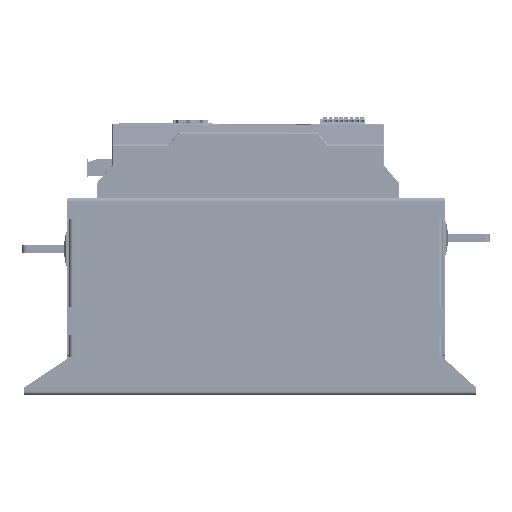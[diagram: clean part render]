
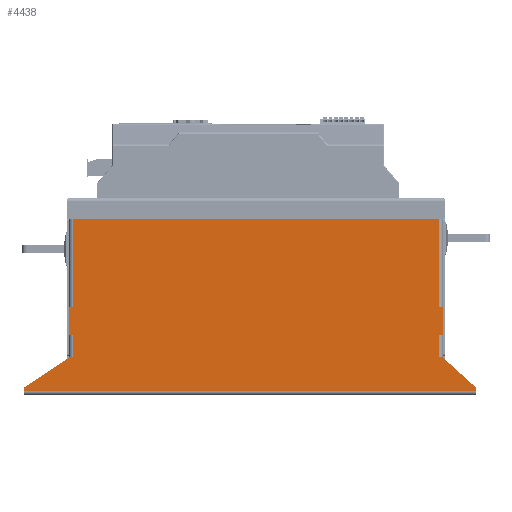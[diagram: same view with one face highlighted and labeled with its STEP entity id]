
A CAD part, front view. The second image highlights one B-rep face of the part: STEP entity #4438.
In plain terms, the highlighted planar face has unit normal (0, -1, 0).
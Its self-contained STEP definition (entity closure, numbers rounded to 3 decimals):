
#281=DIRECTION('',(1.,0.,0.));
#282=VECTOR('',#281,300.);
#283=CARTESIAN_POINT('',(0.,-135.,2.4));
#284=LINE('',#283,#282);
#311=DIRECTION('',(-0.74,0.,0.673));
#312=VECTOR('',#311,29.732);
#313=CARTESIAN_POINT('',(300.,-135.,5.));
#314=LINE('',#313,#312);
#318=DIRECTION('',(0.,0.,1.));
#319=VECTOR('',#318,2.6);
#320=CARTESIAN_POINT('',(300.,-135.,2.4));
#321=LINE('',#320,#319);
#325=DIRECTION('',(0.,0.,-1.));
#326=VECTOR('',#325,2.6);
#327=CARTESIAN_POINT('',(0.,-135.,5.));
#328=LINE('',#327,#326);
#332=DIRECTION('',(-0.832,0.,-0.555));
#333=VECTOR('',#332,36.056);
#334=CARTESIAN_POINT('',(30.,-135.,25.));
#335=LINE('',#334,#333);
#339=DIRECTION('',(0.,0.,-1.));
#340=VECTOR('',#339,18.);
#341=CARTESIAN_POINT('',(30.,-135.,58.2));
#342=LINE('',#341,#340);
#346=DIRECTION('',(-1.,0.,0.));
#347=VECTOR('',#346,7.6);
#348=CARTESIAN_POINT('',(40.,-135.,117.));
#349=LINE('',#348,#347);
#353=DIRECTION('',(-1.,0.,0.));
#354=VECTOR('',#353,7.6);
#355=CARTESIAN_POINT('',(275.6,-135.,117.));
#356=LINE('',#355,#354);
#360=DIRECTION('',(0.,0.,-1.));
#361=VECTOR('',#360,18.);
#362=CARTESIAN_POINT('',(278.,-135.,58.2));
#363=LINE('',#362,#361);
#367=DIRECTION('',(1.,0.,0.));
#368=VECTOR('',#367,2.4);
#369=CARTESIAN_POINT('',(275.6,-135.,25.));
#370=LINE('',#369,#368);
#410=DIRECTION('',(0.,0.,-1.));
#411=VECTOR('',#410,15.2);
#412=CARTESIAN_POINT('',(275.6,-135.,40.2));
#413=LINE('',#412,#411);
#499=DIRECTION('',(-1.,0.,0.));
#500=VECTOR('',#499,2.4);
#501=CARTESIAN_POINT('',(278.,-135.,40.2));
#502=LINE('',#501,#500);
#527=DIRECTION('',(1.,0.,0.));
#528=VECTOR('',#527,2.4);
#529=CARTESIAN_POINT('',(275.6,-135.,58.2));
#530=LINE('',#529,#528);
#570=DIRECTION('',(0.,0.,-1.));
#571=VECTOR('',#570,58.8);
#572=CARTESIAN_POINT('',(275.6,-135.,117.));
#573=LINE('',#572,#571);
#726=DIRECTION('',(-1.,0.,0.));
#727=VECTOR('',#726,228.);
#728=CARTESIAN_POINT('',(268.,-135.,117.));
#729=LINE('',#728,#727);
#938=DIRECTION('',(0.,0.,1.));
#939=VECTOR('',#938,58.8);
#940=CARTESIAN_POINT('',(32.4,-135.,58.2));
#941=LINE('',#940,#939);
#1041=DIRECTION('',(1.,0.,0.));
#1042=VECTOR('',#1041,2.4);
#1043=CARTESIAN_POINT('',(30.,-135.,58.2));
#1044=LINE('',#1043,#1042);
#1069=DIRECTION('',(-1.,0.,0.));
#1070=VECTOR('',#1069,2.4);
#1071=CARTESIAN_POINT('',(32.4,-135.,40.2));
#1072=LINE('',#1071,#1070);
#1112=DIRECTION('',(0.,0.,1.));
#1113=VECTOR('',#1112,15.2);
#1114=CARTESIAN_POINT('',(32.4,-135.,25.));
#1115=LINE('',#1114,#1113);
#1215=DIRECTION('',(1.,0.,0.));
#1216=VECTOR('',#1215,2.4);
#1217=CARTESIAN_POINT('',(30.,-135.,25.));
#1218=LINE('',#1217,#1216);
#3578=CARTESIAN_POINT('',(0.,-135.,2.4));
#3579=CARTESIAN_POINT('',(300.,-135.,2.4));
#3580=VERTEX_POINT('',#3578);
#3581=VERTEX_POINT('',#3579);
#3594=CARTESIAN_POINT('',(300.,-135.,5.));
#3595=VERTEX_POINT('',#3594);
#3596=CARTESIAN_POINT('',(0.,-135.,5.));
#3597=VERTEX_POINT('',#3596);
#3642=CARTESIAN_POINT('',(268.,-135.,117.));
#3644=VERTEX_POINT('',#3642);
#3648=CARTESIAN_POINT('',(40.,-135.,117.));
#3650=VERTEX_POINT('',#3648);
#3686=CARTESIAN_POINT('',(30.,-135.,58.2));
#3687=CARTESIAN_POINT('',(32.4,-135.,58.2));
#3688=VERTEX_POINT('',#3686);
#3689=VERTEX_POINT('',#3687);
#3690=CARTESIAN_POINT('',(32.4,-135.,117.));
#3691=VERTEX_POINT('',#3690);
#3732=CARTESIAN_POINT('',(275.6,-135.,58.2));
#3733=CARTESIAN_POINT('',(278.,-135.,58.2));
#3734=VERTEX_POINT('',#3732);
#3735=VERTEX_POINT('',#3733);
#3736=CARTESIAN_POINT('',(275.6,-135.,117.));
#3737=VERTEX_POINT('',#3736);
#3774=CARTESIAN_POINT('',(32.4,-135.,40.2));
#3775=CARTESIAN_POINT('',(30.,-135.,40.2));
#3776=VERTEX_POINT('',#3774);
#3777=VERTEX_POINT('',#3775);
#3778=CARTESIAN_POINT('',(30.,-135.,25.));
#3779=CARTESIAN_POINT('',(32.4,-135.,25.));
#3780=VERTEX_POINT('',#3778);
#3781=VERTEX_POINT('',#3779);
#3822=CARTESIAN_POINT('',(275.6,-135.,25.));
#3823=CARTESIAN_POINT('',(278.,-135.,25.));
#3824=VERTEX_POINT('',#3822);
#3825=VERTEX_POINT('',#3823);
#3826=CARTESIAN_POINT('',(278.,-135.,40.2));
#3827=CARTESIAN_POINT('',(275.6,-135.,40.2));
#3828=VERTEX_POINT('',#3826);
#3829=VERTEX_POINT('',#3827);
#4392=CARTESIAN_POINT('',(300.,-135.,0.));
#4393=DIRECTION('',(0.,-1.,0.));
#4394=DIRECTION('',(1.,0.,0.));
#4395=AXIS2_PLACEMENT_3D('',#4392,#4393,#4394);
#4396=PLANE('',#4395);
#4398=ORIENTED_EDGE('',*,*,#4397,.T.);
#4400=ORIENTED_EDGE('',*,*,#4399,.F.);
#4402=ORIENTED_EDGE('',*,*,#4401,.F.);
#4403=ORIENTED_EDGE('',*,*,#4383,.F.);
#4405=ORIENTED_EDGE('',*,*,#4404,.F.);
#4407=ORIENTED_EDGE('',*,*,#4406,.F.);
#4409=ORIENTED_EDGE('',*,*,#4408,.T.);
#4411=ORIENTED_EDGE('',*,*,#4410,.T.);
#4413=ORIENTED_EDGE('',*,*,#4412,.T.);
#4415=ORIENTED_EDGE('',*,*,#4414,.F.);
#4417=ORIENTED_EDGE('',*,*,#4416,.T.);
#4419=ORIENTED_EDGE('',*,*,#4418,.T.);
#4421=ORIENTED_EDGE('',*,*,#4420,.F.);
#4423=ORIENTED_EDGE('',*,*,#4422,.F.);
#4425=ORIENTED_EDGE('',*,*,#4424,.F.);
#4427=ORIENTED_EDGE('',*,*,#4426,.T.);
#4429=ORIENTED_EDGE('',*,*,#4428,.T.);
#4431=ORIENTED_EDGE('',*,*,#4430,.T.);
#4433=ORIENTED_EDGE('',*,*,#4432,.T.);
#4435=ORIENTED_EDGE('',*,*,#4434,.T.);
#4436=EDGE_LOOP('',(#4398,#4400,#4402,#4403,#4405,#4407,#4409,#4411,#4413,#4415,
#4417,#4419,#4421,#4423,#4425,#4427,#4429,#4431,#4433,#4435));
#4437=FACE_OUTER_BOUND('',#4436,.F.);
#4383=EDGE_CURVE('',#3580,#3581,#284,.T.);
#4397=EDGE_CURVE('',#3824,#3825,#370,.T.);
#4399=EDGE_CURVE('',#3595,#3825,#314,.T.);
#4401=EDGE_CURVE('',#3581,#3595,#321,.T.);
#4404=EDGE_CURVE('',#3597,#3580,#328,.T.);
#4406=EDGE_CURVE('',#3780,#3597,#335,.T.);
#4408=EDGE_CURVE('',#3780,#3781,#1218,.T.);
#4410=EDGE_CURVE('',#3781,#3776,#1115,.T.);
#4412=EDGE_CURVE('',#3776,#3777,#1072,.T.);
#4414=EDGE_CURVE('',#3688,#3777,#342,.T.);
#4416=EDGE_CURVE('',#3688,#3689,#1044,.T.);
#4418=EDGE_CURVE('',#3689,#3691,#941,.T.);
#4420=EDGE_CURVE('',#3650,#3691,#349,.T.);
#4422=EDGE_CURVE('',#3644,#3650,#729,.T.);
#4424=EDGE_CURVE('',#3737,#3644,#356,.T.);
#4426=EDGE_CURVE('',#3737,#3734,#573,.T.);
#4428=EDGE_CURVE('',#3734,#3735,#530,.T.);
#4430=EDGE_CURVE('',#3735,#3828,#363,.T.);
#4432=EDGE_CURVE('',#3828,#3829,#502,.T.);
#4434=EDGE_CURVE('',#3829,#3824,#413,.T.);
#4438=ADVANCED_FACE('',(#4437),#4396,.T.);
